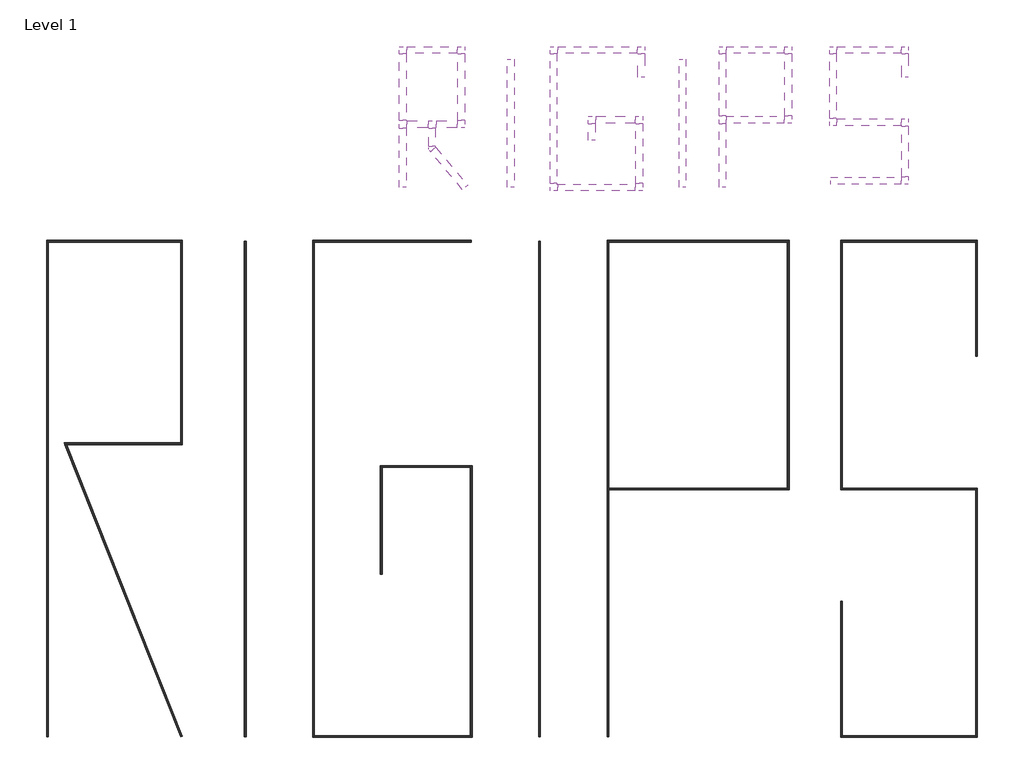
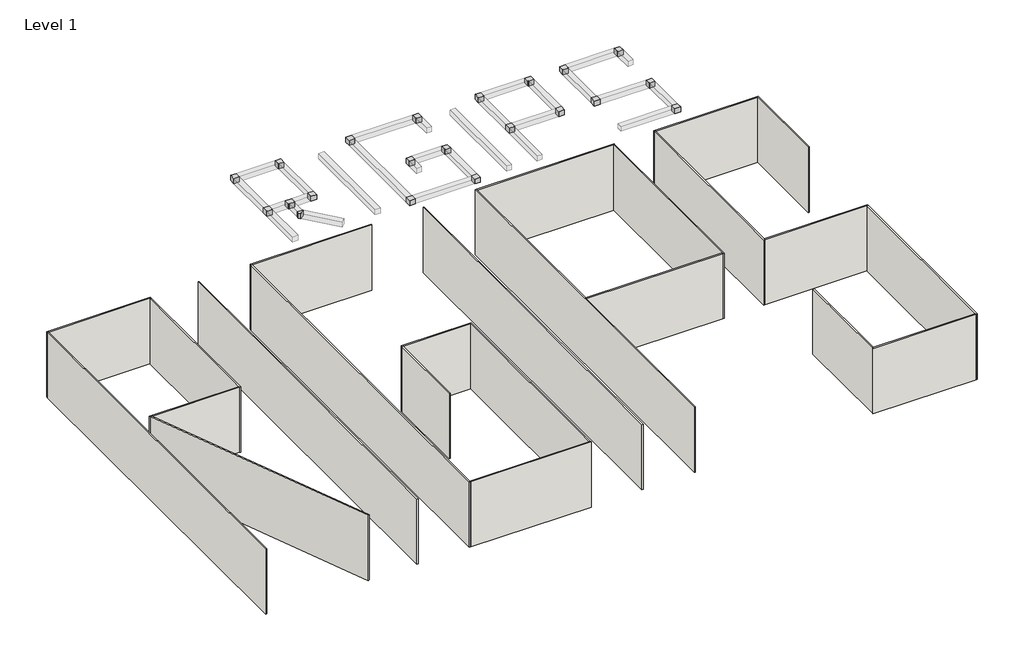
# One storey: 28 duct segments, 24 walls, 21 duct fittings.
"""IFC4 building model written with IfcOpenShell, lengths in millimetres."""

from ifc_helpers import new_model, si_unit, frame, origin, origin_with_axes, place, context, project, spatial, polyline, outline, extrude, faceted_brep, transform, mapped, element, save
from components import m_rectangular_elbow_mitered_standard_17a97d08, m_rectangular_elbow_mitered_standard_5edf3fd6, m_rectangular_tee_standard_1feb34d3

model = new_model("IFC4")

# Units and contexts
model_context = context("Model", 3, world=origin())
ifc_project = project(units=[si_unit("LENGTHUNIT", "METRE", prefix="MILLI")], contexts=[model_context])

# Site, building, storey
site = spatial("IfcSite", under=ifc_project)
building = spatial("IfcBuilding", under=site)
storey = spatial("IfcBuildingStorey", under=building, Name="Level 1", Elevation=0.0)

# Duct fittings
placement = place(None, origin())
m_rectangular_elbow_mitered_standard_shape = m_rectangular_elbow_mitered_standard_17a97d08(model_context)
element("IfcDuctFitting", 1, ObjectType="M_Rectangular Elbow - Mitered : Standard", at=placement, inside=storey, context=model_context, shape_type="MappedRepresentation", body=[
    mapped(m_rectangular_elbow_mitered_standard_shape, transform((-4984.4394889, 19814.0014604, 2743.2), x_axis=(-1.0, 0.0, 0.0), y_axis=(0.0, -1.0, 0.0), z_axis=(0.0, 0.0, 1.0))),
])
element("IfcDuctFitting", 2, ObjectType="M_Rectangular Elbow - Mitered : Standard", at=placement, inside=storey, context=model_context, shape_type="MappedRepresentation", body=[
    mapped(m_rectangular_elbow_mitered_standard_shape, transform((-2384.4394889, 19814.0014604, 2743.2), x_axis=(0.0, 1.0, 0.0), y_axis=(-1.0, 0.0, 0.0), z_axis=(0.0, 0.0, 1.0))),
])
element("IfcDuctFitting", 3, ObjectType="M_Rectangular Elbow - Mitered : Standard", at=placement, inside=storey, context=model_context, shape_type="MappedRepresentation", body=[
    mapped(m_rectangular_elbow_mitered_standard_shape, transform((-2384.4394889, 16508.9123693, 2743.2), x_axis=(1.0, 0.0, 0.0), y_axis=(0.0, 1.0, 0.0), z_axis=(0.0, 0.0, 1.0))),
])
element("IfcDuctFitting", 4, ObjectType="M_Rectangular Elbow - Mitered : Standard", at=placement, inside=storey, context=model_context, shape_type="MappedRepresentation", body=[
    mapped(m_rectangular_elbow_mitered_standard_shape, transform((1711.8797866, 13708.9123693, 2743.2), x_axis=(0.0, -1.0, 0.0), y_axis=(1.0, 0.0, 0.0), z_axis=(0.0, 0.0, 1.0))),
])
element("IfcDuctFitting", 5, ObjectType="M_Rectangular Elbow - Mitered : Standard", at=placement, inside=storey, context=model_context, shape_type="MappedRepresentation", body=[
    mapped(m_rectangular_elbow_mitered_standard_shape, transform((5511.8797866, 13708.9123693, 2743.2), x_axis=(1.0, 0.0, 0.0), y_axis=(0.0, 1.0, 0.0), z_axis=(0.0, 0.0, 1.0))),
])
element("IfcDuctFitting", 6, ObjectType="M_Rectangular Elbow - Mitered : Standard", at=placement, inside=storey, context=model_context, shape_type="MappedRepresentation", body=[
    mapped(m_rectangular_elbow_mitered_standard_shape, transform((5511.8797866, 16708.9123693, 2743.2), x_axis=(0.0, 1.0, 0.0), y_axis=(-1.0, 0.0, 0.0), z_axis=(0.0, 0.0, 1.0))),
])
element("IfcDuctFitting", 7, ObjectType="M_Rectangular Elbow - Mitered : Standard", at=placement, inside=storey, context=model_context, shape_type="MappedRepresentation", body=[
    mapped(m_rectangular_elbow_mitered_standard_shape, transform((3411.8797866, 16708.9123693, 2743.2), x_axis=(-1.0, 0.0, 0.0), y_axis=(0.0, -1.0, 0.0), z_axis=(0.0, 0.0, 1.0))),
])
element("IfcDuctFitting", 8, ObjectType="M_Rectangular Elbow - Mitered : Standard", at=placement, inside=storey, context=model_context, shape_type="MappedRepresentation", body=[
    mapped(m_rectangular_elbow_mitered_standard_shape, transform((1711.8797866, 19814.0014604, 2743.2), x_axis=(-1.0, 0.0, 0.0), y_axis=(0.0, -1.0, 0.0), z_axis=(0.0, 0.0, 1.0))),
])
element("IfcDuctFitting", 9, ObjectType="M_Rectangular Elbow - Mitered : Standard", at=placement, inside=storey, context=model_context, shape_type="MappedRepresentation", body=[
    mapped(m_rectangular_elbow_mitered_standard_shape, transform((5611.8797866, 19814.0014604, 2743.2), x_axis=(0.0, 1.0, 0.0), y_axis=(-1.0, 0.0, 0.0), z_axis=(0.0, 0.0, 1.0))),
])
element("IfcDuctFitting", 10, ObjectType="M_Rectangular Elbow - Mitered : Standard", at=placement, inside=storey, context=model_context, shape_type="MappedRepresentation", body=[
    mapped(m_rectangular_elbow_mitered_standard_shape, transform((9214.9845171, 19814.0014604, 2743.2), x_axis=(-1.0, 0.0, 0.0), y_axis=(0.0, -1.0, 0.0), z_axis=(0.0, 0.0, 1.0))),
])
element("IfcDuctFitting", 11, ObjectType="M_Rectangular Elbow - Mitered : Standard", at=placement, inside=storey, context=model_context, shape_type="MappedRepresentation", body=[
    mapped(m_rectangular_elbow_mitered_standard_shape, transform((12131.9318568, 19814.0014604, 2743.2), x_axis=(0.0, 1.0, 0.0), y_axis=(-1.0, 0.0, 0.0), z_axis=(0.0, 0.0, 1.0))),
])
element("IfcDuctFitting", 12, ObjectType="M_Rectangular Elbow - Mitered : Standard", at=placement, inside=storey, context=model_context, shape_type="MappedRepresentation", body=[
    mapped(m_rectangular_elbow_mitered_standard_shape, transform((12131.9318568, 16714.0014604, 2743.2), x_axis=(1.0, 0.0, 0.0), y_axis=(0.0, 1.0, 0.0), z_axis=(0.0, 0.0, 1.0))),
])
element("IfcDuctFitting", 13, ObjectType="M_Rectangular Elbow - Mitered : Standard", at=placement, inside=storey, context=model_context, shape_type="MappedRepresentation", body=[
    mapped(m_rectangular_elbow_mitered_standard_shape, transform((17323.1783387, 19814.0014604, 2743.2), x_axis=(0.0, 1.0, 0.0), y_axis=(-1.0, 0.0, 0.0), z_axis=(0.0, 0.0, 1.0))),
])
element("IfcDuctFitting", 14, ObjectType="M_Rectangular Elbow - Mitered : Standard", at=placement, inside=storey, context=model_context, shape_type="MappedRepresentation", body=[
    mapped(m_rectangular_elbow_mitered_standard_shape, transform((14123.1783387, 19814.0014604, 2743.2), x_axis=(-1.0, 0.0, 0.0), y_axis=(0.0, -1.0, 0.0), z_axis=(0.0, 0.0, 1.0))),
])
element("IfcDuctFitting", 15, ObjectType="M_Rectangular Elbow - Mitered : Standard", at=placement, inside=storey, context=model_context, shape_type="MappedRepresentation", body=[
    mapped(m_rectangular_elbow_mitered_standard_shape, transform((14123.1783387, 16610.608733, 2743.2), x_axis=(0.0, -1.0, 0.0), y_axis=(1.0, 0.0, 0.0), z_axis=(0.0, 0.0, 1.0))),
])
element("IfcDuctFitting", 16, ObjectType="M_Rectangular Elbow - Mitered : Standard", at=placement, inside=storey, context=model_context, shape_type="MappedRepresentation", body=[
    mapped(m_rectangular_elbow_mitered_standard_shape, transform((17323.1783387, 16610.608733, 2743.2), x_axis=(0.0, 1.0, 0.0), y_axis=(-1.0, 0.0, 0.0), z_axis=(0.0, 0.0, 1.0))),
])
element("IfcDuctFitting", 17, ObjectType="M_Rectangular Elbow - Mitered : Standard", at=placement, inside=storey, context=model_context, shape_type="MappedRepresentation", body=[
    mapped(m_rectangular_elbow_mitered_standard_shape, transform((17323.1783387, 14010.608733, 2743.2), x_axis=(1.0, 0.0, 0.0), y_axis=(0.0, 1.0, 0.0), z_axis=(0.0, 0.0, 1.0))),
])
m_rectangular_elbow_mitered_standard_2_shape = m_rectangular_elbow_mitered_standard_5edf3fd6(model_context)
element("IfcDuctFitting", 18, ObjectType="M_Rectangular Elbow - Mitered : Standard", at=placement, inside=storey, context=model_context, shape_type="MappedRepresentation", body=[
    mapped(m_rectangular_elbow_mitered_standard_2_shape, transform((-3684.4394889, 15456.4123693, 2743.2), x_axis=(0.0, -1.0, 0.0), y_axis=(1.0, 0.0, 0.0), z_axis=(0.0, 0.0, 1.0))),
])
m_rectangular_tee_standard_shape = m_rectangular_tee_standard_1feb34d3(model_context)
element("IfcDuctFitting", 19, ObjectType="M_Rectangular Tee : Standard", at=placement, inside=storey, context=model_context, shape_type="MappedRepresentation", body=[
    mapped(m_rectangular_tee_standard_shape, transform((-4984.4394889, 16508.9123693, 2743.2), x_axis=(0.0, 1.0, 0.0), y_axis=(-1.0, 0.0, 0.0), z_axis=(0.0, 0.0, 1.0))),
])
element("IfcDuctFitting", 20, ObjectType="M_Rectangular Tee : Standard", at=placement, inside=storey, context=model_context, shape_type="MappedRepresentation", body=[
    mapped(m_rectangular_tee_standard_shape, transform((-3684.4394889, 16508.9123693, 2743.2), x_axis=(1.0, 0.0, 0.0), y_axis=(0.0, 1.0, 0.0), z_axis=(0.0, 0.0, 1.0))),
])
element("IfcDuctFitting", 21, ObjectType="M_Rectangular Tee : Standard", at=placement, inside=storey, context=model_context, shape_type="MappedRepresentation", body=[
    mapped(m_rectangular_tee_standard_shape, transform((9214.9845171, 16714.0014604, 2743.2), x_axis=(0.0, 1.0, 0.0), y_axis=(-1.0, 0.0, 0.0), z_axis=(0.0, 0.0, 1.0))),
])

# Duct segments
element("IfcDuctSegment", 22, ObjectType="RIGIPS - 6.65.00 - EI60 poziomy", at=placement, inside=storey, context=model_context, shape_type="SweptSolid", body=[
    extrude(outline(polyline([(-5136.9394889, 16331.4123693), (-4831.9394889, 16331.4123693), (-4831.9394889, 13708.9123693), (-5136.9394889, 13708.9123693), (-5136.9394889, 16331.4123693)])), frame((0.0, 0.0, 2590.7), z_axis=(0.0, 0.0, 1.0), x_axis=(1.0, 0.0, 0.0)), (0.0, 0.0, 1.0), 305.0),
])
element("IfcDuctSegment", 23, ObjectType="RIGIPS - 6.65.00 - EI60 poziomy", at=placement, inside=storey, context=model_context, shape_type="SweptSolid", body=[
    extrude(outline(polyline([(-4806.9394889, 19661.5014604), (-4806.9394889, 19966.5014604), (-2561.9394889, 19966.5014604), (-2561.9394889, 19661.5014604), (-4806.9394889, 19661.5014604)])), frame((0.0, 0.0, 2590.7), z_axis=(0.0, 0.0, 1.0), x_axis=(1.0, 0.0, 0.0)), (0.0, 0.0, 1.0), 305.0),
])
element("IfcDuctSegment", 24, ObjectType="RIGIPS - 6.65.00 - EI60 poziomy", at=placement, inside=storey, context=model_context, shape_type="SweptSolid", body=[
    extrude(outline(polyline([(-2536.9394889, 19636.5014604), (-2231.9394889, 19636.5014604), (-2231.9394889, 16686.4123693), (-2536.9394889, 16686.4123693), (-2536.9394889, 19636.5014604)])), frame((0.0, 0.0, 2590.7), z_axis=(0.0, 0.0, 1.0), x_axis=(1.0, 0.0, 0.0)), (0.0, 0.0, 1.0), 305.0),
])
element("IfcDuctSegment", 25, ObjectType="RIGIPS - 6.65.00 - EI60 poziomy", at=placement, inside=storey, context=model_context, shape_type="SweptSolid", body=[
    extrude(outline(polyline([(-3506.9394889, 16356.4123693), (-3506.9394889, 16661.4123693), (-2561.9394889, 16661.4123693), (-2561.9394889, 16356.4123693), (-3506.9394889, 16356.4123693)])), frame((0.0, 0.0, 2590.7), z_axis=(0.0, 0.0, 1.0), x_axis=(1.0, 0.0, 0.0)), (0.0, 0.0, 1.0), 305.0),
])
element("IfcDuctSegment", 26, ObjectType="RIGIPS - 6.65.00 - EI60 poziomy", at=placement, inside=storey, context=model_context, shape_type="SweptSolid", body=[
    extrude(outline(polyline([(-5136.9394889, 19636.5014604), (-4831.9394889, 19636.5014604), (-4831.9394889, 16686.4123693), (-5136.9394889, 16686.4123693), (-5136.9394889, 19636.5014604)])), frame((0.0, 0.0, 2590.7), z_axis=(0.0, 0.0, 1.0), x_axis=(1.0, 0.0, 0.0)), (0.0, 0.0, 1.0), 305.0),
])
element("IfcDuctSegment", 27, ObjectType="RIGIPS - 6.65.00 - EI60 poziomy", at=placement, inside=storey, context=model_context, shape_type="SweptSolid", body=[
    extrude(outline(polyline([(-3836.9394889, 16331.4123693), (-3531.9394889, 16331.4123693), (-3531.9394889, 15536.91783), (-3836.9394889, 15536.91783), (-3836.9394889, 16331.4123693)])), frame((0.0, 0.0, 2590.7), z_axis=(0.0, 0.0, 1.0), x_axis=(1.0, 0.0, 0.0)), (0.0, 0.0, 1.0), 305.0),
])
element("IfcDuctSegment", 28, ObjectType="RIGIPS - 6.65.00 - EI60 poziomy", at=placement, inside=storey, context=model_context, shape_type="SweptSolid", body=[
    extrude(outline(polyline([(-4806.9394889, 16356.4123693), (-4806.9394889, 16661.4123693), (-3861.9394889, 16661.4123693), (-3861.9394889, 16356.4123693), (-4806.9394889, 16356.4123693)])), frame((0.0, 0.0, 2590.7), z_axis=(0.0, 0.0, 1.0), x_axis=(1.0, 0.0, 0.0)), (0.0, 0.0, 1.0), 305.0),
])
element("IfcDuctSegment", 29, ObjectType="RIGIPS - 6.65.00 - EI60 poziomy", at=placement, inside=storey, context=model_context, shape_type="SweptSolid", body=[
    extrude(outline(polyline([(-3749.5133538, 15296.716498), (-3515.8697987, 15492.7667189), (-2101.2911059, 13806.9374797), (-2334.934661, 13610.8872588), (-3749.5133538, 15296.716498)])), frame((0.0, 0.0, 2590.7), z_axis=(0.0, 0.0, 1.0), x_axis=(1.0, 0.0, 0.0)), (0.0, 0.0, 1.0), 305.0),
])
element("IfcDuctSegment", 30, ObjectType="RIGIPS - 6.65.00 - EI60 poziomy", at=placement, inside=storey, context=model_context, shape_type="SweptSolid", body=[
    extrude(outline(polyline([(-336.5660324, 19410.608733), (-31.5660324, 19410.608733), (-31.5660324, 13708.9123693), (-336.5660324, 13708.9123693), (-336.5660324, 19410.608733)])), frame((0.0, 0.0, 2590.7), z_axis=(0.0, 0.0, 1.0), x_axis=(1.0, 0.0, 0.0)), (0.0, 0.0, 1.0), 305.0),
])
element("IfcDuctSegment", 31, ObjectType="RIGIPS - 6.65.00 - EI60 poziomy", at=placement, inside=storey, context=model_context, shape_type="SweptSolid", body=[
    extrude(outline(polyline([(1559.3797866, 19636.5014604), (1864.3797866, 19636.5014604), (1864.3797866, 13886.4123693), (1559.3797866, 13886.4123693), (1559.3797866, 19636.5014604)])), frame((0.0, 0.0, 2590.7), z_axis=(0.0, 0.0, 1.0), x_axis=(1.0, 0.0, 0.0)), (0.0, 0.0, 1.0), 305.0),
])
element("IfcDuctSegment", 32, ObjectType="RIGIPS - 6.65.00 - EI60 poziomy", at=placement, inside=storey, context=model_context, shape_type="SweptSolid", body=[
    extrude(outline(polyline([(1889.3797866, 13556.4123693), (1889.3797866, 13861.4123693), (5334.3797866, 13861.4123693), (5334.3797866, 13556.4123693), (1889.3797866, 13556.4123693)])), frame((0.0, 0.0, 2590.7), z_axis=(0.0, 0.0, 1.0), x_axis=(1.0, 0.0, 0.0)), (0.0, 0.0, 1.0), 305.0),
])
element("IfcDuctSegment", 33, ObjectType="RIGIPS - 6.65.00 - EI60 poziomy", at=placement, inside=storey, context=model_context, shape_type="SweptSolid", body=[
    extrude(outline(polyline([(5664.3797866, 13886.4123693), (5359.3797866, 13886.4123693), (5359.3797866, 16531.4123693), (5664.3797866, 16531.4123693), (5664.3797866, 13886.4123693)])), frame((0.0, 0.0, 2590.7), z_axis=(0.0, 0.0, 1.0), x_axis=(1.0, 0.0, 0.0)), (0.0, 0.0, 1.0), 305.0),
])
element("IfcDuctSegment", 34, ObjectType="RIGIPS - 6.65.00 - EI60 poziomy", at=placement, inside=storey, context=model_context, shape_type="SweptSolid", body=[
    extrude(outline(polyline([(5334.3797866, 16861.4123693), (5334.3797866, 16556.4123693), (3589.3797866, 16556.4123693), (3589.3797866, 16861.4123693), (5334.3797866, 16861.4123693)])), frame((0.0, 0.0, 2590.7), z_axis=(0.0, 0.0, 1.0), x_axis=(1.0, 0.0, 0.0)), (0.0, 0.0, 1.0), 305.0),
])
element("IfcDuctSegment", 35, ObjectType="RIGIPS - 6.65.00 - EI60 poziomy", at=placement, inside=storey, context=model_context, shape_type="SweptSolid", body=[
    extrude(outline(polyline([(3259.3797866, 16531.4123693), (3564.3797866, 16531.4123693), (3564.3797866, 15808.9123693), (3259.3797866, 15808.9123693), (3259.3797866, 16531.4123693)])), frame((0.0, 0.0, 2590.7), z_axis=(0.0, 0.0, 1.0), x_axis=(1.0, 0.0, 0.0)), (0.0, 0.0, 1.0), 305.0),
])
element("IfcDuctSegment", 36, ObjectType="RIGIPS - 6.65.00 - EI60 poziomy", at=placement, inside=storey, context=model_context, shape_type="SweptSolid", body=[
    extrude(outline(polyline([(1889.3797866, 19661.5014604), (1889.3797866, 19966.5014604), (5434.3797866, 19966.5014604), (5434.3797866, 19661.5014604), (1889.3797866, 19661.5014604)])), frame((0.0, 0.0, 2590.7), z_axis=(0.0, 0.0, 1.0), x_axis=(1.0, 0.0, 0.0)), (0.0, 0.0, 1.0), 305.0),
])
element("IfcDuctSegment", 37, ObjectType="RIGIPS - 6.65.00 - EI60 poziomy", at=placement, inside=storey, context=model_context, shape_type="SweptSolid", body=[
    extrude(outline(polyline([(5459.3797866, 19636.5014604), (5764.3797866, 19636.5014604), (5764.3797866, 18610.608733), (5459.3797866, 18610.608733), (5459.3797866, 19636.5014604)])), frame((0.0, 0.0, 2590.7), z_axis=(0.0, 0.0, 1.0), x_axis=(1.0, 0.0, 0.0)), (0.0, 0.0, 1.0), 305.0),
])
element("IfcDuctSegment", 38, ObjectType="RIGIPS - 6.65.00 - EI60 poziomy", at=placement, inside=storey, context=model_context, shape_type="SweptSolid", body=[
    extrude(outline(polyline([(7287.5565163, 19410.608733), (7592.5565163, 19410.608733), (7592.5565163, 13708.9123693), (7287.5565163, 13708.9123693), (7287.5565163, 19410.608733)])), frame((0.0, 0.0, 2590.7), z_axis=(0.0, 0.0, 1.0), x_axis=(1.0, 0.0, 0.0)), (0.0, 0.0, 1.0), 305.0),
])
element("IfcDuctSegment", 39, ObjectType="RIGIPS - 6.65.00 - EI60 poziomy", at=placement, inside=storey, context=model_context, shape_type="SweptSolid", body=[
    extrude(outline(polyline([(9062.4845171, 16536.5014604), (9367.4845171, 16536.5014604), (9367.4845171, 13708.9123693), (9062.4845171, 13708.9123693), (9062.4845171, 16536.5014604)])), frame((0.0, 0.0, 2590.7), z_axis=(0.0, 0.0, 1.0), x_axis=(1.0, 0.0, 0.0)), (0.0, 0.0, 1.0), 305.0),
])
element("IfcDuctSegment", 40, ObjectType="RIGIPS - 6.65.00 - EI60 poziomy", at=placement, inside=storey, context=model_context, shape_type="SweptSolid", body=[
    extrude(outline(polyline([(9392.4845171, 19661.5014604), (9392.4845171, 19966.5014604), (11954.4318568, 19966.5014604), (11954.4318568, 19661.5014604), (9392.4845171, 19661.5014604)])), frame((0.0, 0.0, 2590.7), z_axis=(0.0, 0.0, 1.0), x_axis=(1.0, 0.0, 0.0)), (0.0, 0.0, 1.0), 305.0),
])
element("IfcDuctSegment", 41, ObjectType="RIGIPS - 6.65.00 - EI60 poziomy", at=placement, inside=storey, context=model_context, shape_type="SweptSolid", body=[
    extrude(outline(polyline([(11979.4318568, 19636.5014604), (12284.4318568, 19636.5014604), (12284.4318568, 16891.5014604), (11979.4318568, 16891.5014604), (11979.4318568, 19636.5014604)])), frame((0.0, 0.0, 2590.7), z_axis=(0.0, 0.0, 1.0), x_axis=(1.0, 0.0, 0.0)), (0.0, 0.0, 1.0), 305.0),
])
element("IfcDuctSegment", 42, ObjectType="RIGIPS - 6.65.00 - EI60 poziomy", at=placement, inside=storey, context=model_context, shape_type="SweptSolid", body=[
    extrude(outline(polyline([(9392.4845171, 16561.5014604), (9392.4845171, 16866.5014604), (11954.4318568, 16866.5014604), (11954.4318568, 16561.5014604), (9392.4845171, 16561.5014604)])), frame((0.0, 0.0, 2590.7), z_axis=(0.0, 0.0, 1.0), x_axis=(1.0, 0.0, 0.0)), (0.0, 0.0, 1.0), 305.0),
])
element("IfcDuctSegment", 43, ObjectType="RIGIPS - 6.65.00 - EI60 poziomy", at=placement, inside=storey, context=model_context, shape_type="SweptSolid", body=[
    extrude(outline(polyline([(9062.4845171, 19636.5014604), (9367.4845171, 19636.5014604), (9367.4845171, 16891.5014604), (9062.4845171, 16891.5014604), (9062.4845171, 19636.5014604)])), frame((0.0, 0.0, 2590.7), z_axis=(0.0, 0.0, 1.0), x_axis=(1.0, 0.0, 0.0)), (0.0, 0.0, 1.0), 305.0),
])
element("IfcDuctSegment", 44, ObjectType="RIGIPS - 6.65.00 - EI60 poziomy", at=placement, inside=storey, context=model_context, shape_type="SweptSolid", body=[
    extrude(outline(polyline([(17475.6783387, 18610.608733), (17170.6783387, 18610.608733), (17170.6783387, 19636.5014604), (17475.6783387, 19636.5014604), (17475.6783387, 18610.608733)])), frame((0.0, 0.0, 2590.7), z_axis=(0.0, 0.0, 1.0), x_axis=(1.0, 0.0, 0.0)), (0.0, 0.0, 1.0), 305.0),
])
element("IfcDuctSegment", 45, ObjectType="RIGIPS - 6.65.00 - EI60 poziomy", at=placement, inside=storey, context=model_context, shape_type="SweptSolid", body=[
    extrude(outline(polyline([(17145.6783387, 19966.5014604), (17145.6783387, 19661.5014604), (14300.6783387, 19661.5014604), (14300.6783387, 19966.5014604), (17145.6783387, 19966.5014604)])), frame((0.0, 0.0, 2590.7), z_axis=(0.0, 0.0, 1.0), x_axis=(1.0, 0.0, 0.0)), (0.0, 0.0, 1.0), 305.0),
])
element("IfcDuctSegment", 46, ObjectType="RIGIPS - 6.65.00 - EI60 poziomy", at=placement, inside=storey, context=model_context, shape_type="SweptSolid", body=[
    extrude(outline(polyline([(13970.6783387, 19636.5014604), (14275.6783387, 19636.5014604), (14275.6783387, 16788.108733), (13970.6783387, 16788.108733), (13970.6783387, 19636.5014604)])), frame((0.0, 0.0, 2590.7), z_axis=(0.0, 0.0, 1.0), x_axis=(1.0, 0.0, 0.0)), (0.0, 0.0, 1.0), 305.0),
])
element("IfcDuctSegment", 47, ObjectType="RIGIPS - 6.65.00 - EI60 poziomy", at=placement, inside=storey, context=model_context, shape_type="SweptSolid", body=[
    extrude(outline(polyline([(14300.6783387, 16458.108733), (14300.6783387, 16763.108733), (17145.6783387, 16763.108733), (17145.6783387, 16458.108733), (14300.6783387, 16458.108733)])), frame((0.0, 0.0, 2590.7), z_axis=(0.0, 0.0, 1.0), x_axis=(1.0, 0.0, 0.0)), (0.0, 0.0, 1.0), 305.0),
])
element("IfcDuctSegment", 48, ObjectType="RIGIPS - 6.65.00 - EI60 poziomy", at=placement, inside=storey, context=model_context, shape_type="SweptSolid", body=[
    extrude(outline(polyline([(17170.6783387, 16433.108733), (17475.6783387, 16433.108733), (17475.6783387, 14188.108733), (17170.6783387, 14188.108733), (17170.6783387, 16433.108733)])), frame((0.0, 0.0, 2590.7), z_axis=(0.0, 0.0, 1.0), x_axis=(1.0, 0.0, 0.0)), (0.0, 0.0, 1.0), 305.0),
])
element("IfcDuctSegment", 49, ObjectType="RIGIPS - 6.65.00 - EI60 poziomy", at=placement, inside=storey, context=model_context, shape_type="SweptSolid", body=[
    extrude(outline(polyline([(17145.6783387, 14163.108733), (17145.6783387, 13858.108733), (14023.1783387, 13858.108733), (14023.1783387, 14163.108733), (17145.6783387, 14163.108733)])), frame((0.0, 0.0, 2590.7), z_axis=(0.0, 0.0, 1.0), x_axis=(1.0, 0.0, 0.0)), (0.0, 0.0, 1.0), 305.0),
])

# Walls
element("IfcWall", 50, ObjectType="RIGIPS - 3.40.01 - EI 15 ,REI 15 (H=3000  Rw=44)", at=placement, inside=storey, context=model_context, shape_type="Brep", body=[
    faceted_brep([(-20804.951008, 11284.7896545, 0.0), (-20729.951008, 11284.7896545, 0.0), (-14842.451008, 11284.7896545, 0.0), (-14767.451008, 11284.7896545, 0.0), (-14767.451008, 11284.7896545, 4000.0), (-14842.451008, 11284.7896545, 4000.0), (-20729.951008, 11284.7896545, 4000.0), (-20804.951008, 11284.7896545, 4000.0), (-20804.951008, 11359.7896545, 0.0), (-20804.951008, 11359.7896545, 4000.0), (-14767.451008, 11359.7896545, 4000.0), (-14767.451008, 11359.7896545, 0.0)], [[[0, 1, 2, 3, 4, 5, 6, 7]], [[8, 9, 10, 11]], [[3, 2, 1, 0, 8, 11]], [[7, 6, 5, 4, 10, 9]], [[4, 3, 11, 10]], [[0, 7, 9, 8]]]),
])
element("IfcWall", 51, ObjectType="RIGIPS - 3.40.01 - EI 15 ,REI 15 (H=3000  Rw=44)", at=placement, inside=storey, context=model_context, shape_type="Brep", body=[
    faceted_brep([(-14842.451008, 11284.7896545, 0.0), (-14842.451008, 2359.7896545, 0.0), (-14842.451008, 2284.7896545, 0.0), (-14842.451008, 2284.7896545, 4000.0), (-14842.451008, 2359.7896545, 4000.0), (-14842.451008, 11284.7896545, 4000.0), (-14767.451008, 11284.7896545, 0.0), (-14767.451008, 11284.7896545, 4000.0), (-14767.451008, 2284.7896545, 4000.0), (-14767.451008, 2284.7896545, 0.0)], [[[0, 1, 2, 3, 4, 5]], [[6, 7, 8, 9]], [[2, 1, 0, 6, 9]], [[5, 4, 3, 8, 7]], [[0, 5, 7, 6]], [[3, 2, 9, 8]]]),
])
element("IfcWall", 52, ObjectType="RIGIPS - 3.40.01 - EI 15 ,REI 15 (H=3000  Rw=44)", at=placement, inside=storey, context=model_context, shape_type="Brep", body=[
    faceted_brep([(-14842.451008, 2359.7896545, 0.0), (-20022.6915215, 2359.7896545, 0.0), (-20022.6915215, 2359.7896545, 4000.0), (-14842.451008, 2359.7896545, 4000.0), (-14842.451008, 2284.7896545, 0.0), (-14842.451008, 2284.7896545, 4000.0), (-19912.2104945, 2284.7896545, 4000.0), (-19992.9078677, 2284.7896545, 4000.0), (-19992.9078677, 2284.7896545, 0.0), (-19912.2104945, 2284.7896545, 0.0)], [[[0, 1, 2, 3]], [[4, 5, 6, 7, 8, 9]], [[1, 0, 4, 9, 8]], [[3, 2, 7, 6, 5]], [[0, 3, 5, 4]], [[2, 1, 8, 7]]]),
])
element("IfcWall", 53, ObjectType="RIGIPS - 3.40.01 - EI 15 ,REI 15 (H=3000  Rw=44)", at=placement, inside=storey, context=model_context, shape_type="SweptSolid", body=[
    extrude(outline(polyline([(-14839.8034436, -10691.5507838), (-19992.9078677, 2284.7896545), (-19912.2104945, 2284.7896545), (-14770.0985724, -10663.8699071), (-14839.8034436, -10691.5507838)])), origin_with_axes(), (0.0, 0.0, 1.0), 4000.0),
])
element("IfcWall", 54, ObjectType="RIGIPS - 3.40.01 - EI 15 ,REI 15 (H=3000  Rw=44)", at=placement, inside=storey, context=model_context, shape_type="SweptSolid", body=[
    extrude(outline(polyline([(-12018.0681432, -10677.7103455), (-12018.0681432, 11322.2896545), (-11943.0681432, 11322.2896545), (-11943.0681432, -10677.7103455), (-12018.0681432, -10677.7103455)])), origin_with_axes(), (0.0, 0.0, 1.0), 4000.0),
])
element("IfcWall", 55, ObjectType="RIGIPS - 3.40.01 - EI 15 ,REI 15 (H=3000  Rw=44)", at=placement, inside=storey, context=model_context, shape_type="Brep", body=[
    faceted_brep([(-1943.0681432, 11359.7896545, 0.0), (-8980.5681432, 11359.7896545, 0.0), (-8980.5681432, 11359.7896545, 4000.0), (-1943.0681432, 11359.7896545, 4000.0), (-1943.0681432, 11284.7896545, 0.0), (-1943.0681432, 11284.7896545, 4000.0), (-8905.5681432, 11284.7896545, 4000.0), (-8980.5681432, 11284.7896545, 4000.0), (-8980.5681432, 11284.7896545, 0.0), (-8905.5681432, 11284.7896545, 0.0)], [[[0, 1, 2, 3]], [[4, 5, 6, 7, 8, 9]], [[1, 0, 4, 9, 8]], [[3, 2, 7, 6, 5]], [[0, 3, 5, 4]], [[2, 1, 8, 7]]]),
])
element("IfcWall", 56, ObjectType="RIGIPS - 3.40.01 - EI 15 ,REI 15 (H=3000  Rw=44)", at=placement, inside=storey, context=model_context, shape_type="Brep", body=[
    faceted_brep([(-8980.5681432, 11284.7896545, 0.0), (-8980.5681432, -10715.2103455, 0.0), (-8980.5681432, -10715.2103455, 4000.0), (-8980.5681432, 11284.7896545, 4000.0), (-8905.5681432, 11284.7896545, 0.0), (-8905.5681432, 11284.7896545, 4000.0), (-8905.5681432, -10640.2103455, 4000.0), (-8905.5681432, -10715.2103455, 4000.0), (-8905.5681432, -10715.2103455, 0.0), (-8905.5681432, -10640.2103455, 0.0)], [[[0, 1, 2, 3]], [[4, 5, 6, 7, 8, 9]], [[1, 0, 4, 9, 8]], [[3, 2, 7, 6, 5]], [[0, 3, 5, 4]], [[2, 1, 8, 7]]]),
])
element("IfcWall", 57, ObjectType="RIGIPS - 3.40.01 - EI 15 ,REI 15 (H=3000  Rw=44)", at=placement, inside=storey, context=model_context, shape_type="Brep", body=[
    faceted_brep([(-8905.5681432, -10715.2103455, 0.0), (-1905.5681432, -10715.2103455, 0.0), (-1905.5681432, -10715.2103455, 4000.0), (-8905.5681432, -10715.2103455, 4000.0), (-8905.5681432, -10640.2103455, 0.0), (-8905.5681432, -10640.2103455, 4000.0), (-1980.5681432, -10640.2103455, 4000.0), (-1905.5681432, -10640.2103455, 4000.0), (-1905.5681432, -10640.2103455, 0.0), (-1980.5681432, -10640.2103455, 0.0)], [[[0, 1, 2, 3]], [[4, 5, 6, 7, 8, 9]], [[1, 0, 4, 9, 8]], [[3, 2, 7, 6, 5]], [[0, 3, 5, 4]], [[2, 1, 8, 7]]]),
])
element("IfcWall", 58, ObjectType="RIGIPS - 3.40.01 - EI 15 ,REI 15 (H=3000  Rw=44)", at=placement, inside=storey, context=model_context, shape_type="Brep", body=[
    faceted_brep([(-1905.5681432, -10640.2103455, 0.0), (-1905.5681432, 1359.7896545, 0.0), (-1905.5681432, 1359.7896545, 4000.0), (-1905.5681432, -10640.2103455, 4000.0), (-1980.5681432, -10640.2103455, 0.0), (-1980.5681432, -10640.2103455, 4000.0), (-1980.5681432, 1284.7896545, 4000.0), (-1980.5681432, 1359.7896545, 4000.0), (-1980.5681432, 1359.7896545, 0.0), (-1980.5681432, 1284.7896545, 0.0)], [[[0, 1, 2, 3]], [[4, 5, 6, 7, 8, 9]], [[1, 0, 4, 9, 8]], [[3, 2, 7, 6, 5]], [[0, 3, 5, 4]], [[2, 1, 8, 7]]]),
])
element("IfcWall", 59, ObjectType="RIGIPS - 3.40.01 - EI 15 ,REI 15 (H=3000  Rw=44)", at=placement, inside=storey, context=model_context, shape_type="Brep", body=[
    faceted_brep([(-1980.5681432, 1359.7896545, 0.0), (-5980.5681432, 1359.7896545, 0.0), (-5980.5681432, 1359.7896545, 4000.0), (-1980.5681432, 1359.7896545, 4000.0), (-1980.5681432, 1284.7896545, 0.0), (-1980.5681432, 1284.7896545, 4000.0), (-5905.5681432, 1284.7896545, 4000.0), (-5980.5681432, 1284.7896545, 4000.0), (-5980.5681432, 1284.7896545, 0.0), (-5905.5681432, 1284.7896545, 0.0)], [[[0, 1, 2, 3]], [[4, 5, 6, 7, 8, 9]], [[1, 0, 4, 9, 8]], [[3, 2, 7, 6, 5]], [[0, 3, 5, 4]], [[2, 1, 8, 7]]]),
])
element("IfcWall", 60, ObjectType="RIGIPS - 3.40.01 - EI 15 ,REI 15 (H=3000  Rw=44)", at=placement, inside=storey, context=model_context, shape_type="SweptSolid", body=[
    extrude(outline(polyline([(-5980.5681432, -3471.7741881), (-5980.5681432, 1284.7896545), (-5905.5681432, 1284.7896545), (-5905.5681432, -3471.7741881), (-5980.5681432, -3471.7741881)])), origin_with_axes(), (0.0, 0.0, 1.0), 4000.0),
])
element("IfcWall", 61, ObjectType="RIGIPS - 3.40.01 - EI 15 ,REI 15 (H=3000  Rw=44)", at=placement, inside=storey, context=model_context, shape_type="SweptSolid", body=[
    extrude(outline(polyline([(1056.9318568, -10677.7103455), (1056.9318568, 11322.2896545), (1131.9318568, 11322.2896545), (1131.9318568, -10677.7103455), (1056.9318568, -10677.7103455)])), origin_with_axes(), (0.0, 0.0, 1.0), 4000.0),
])
element("IfcWall", 62, ObjectType="RIGIPS - 3.40.02 - EI 30, REI 30 (H=4500  Rw=46)", at=placement, inside=storey, context=model_context, shape_type="Brep", body=[
    faceted_brep([(4094.4318568, 11359.7896545, 0.0), (4094.4318568, -10677.7103455, 0.0), (4094.4318568, -10677.7103455, 4000.0), (4094.4318568, 11359.7896545, 4000.0), (4169.4318568, 11359.7896545, 0.0), (4169.4318568, 11359.7896545, 4000.0), (4169.4318568, 11284.7896545, 4000.0), (4169.4318568, 359.7896545, 4000.0), (4169.4318568, 284.7896545, 4000.0), (4169.4318568, -10677.7103455, 4000.0), (4169.4318568, -10677.7103455, 0.0), (4169.4318568, 284.7896545, 0.0), (4169.4318568, 359.7896545, 0.0), (4169.4318568, 11284.7896545, 0.0)], [[[0, 1, 2, 3]], [[4, 5, 6, 7, 8, 9, 10, 11, 12, 13]], [[1, 0, 4, 13, 12, 11, 10]], [[2, 1, 10, 9]], [[3, 2, 9, 8, 7, 6, 5]], [[0, 3, 5, 4]]]),
])
element("IfcWall", 63, ObjectType="RIGIPS - 3.40.02 - EI 30, REI 30 (H=4500  Rw=46)", at=placement, inside=storey, context=model_context, shape_type="Brep", body=[
    faceted_brep([(4169.4318568, 11284.7896545, 0.0), (12094.4318568, 11284.7896545, 0.0), (12169.4318568, 11284.7896545, 0.0), (12169.4318568, 11284.7896545, 4000.0), (12094.4318568, 11284.7896545, 4000.0), (4169.4318568, 11284.7896545, 4000.0), (4169.4318568, 11359.7896545, 0.0), (4169.4318568, 11359.7896545, 4000.0), (12169.4318568, 11359.7896545, 4000.0), (12169.4318568, 11359.7896545, 0.0)], [[[0, 1, 2, 3, 4, 5]], [[6, 7, 8, 9]], [[2, 1, 0, 6, 9]], [[5, 4, 3, 8, 7]], [[0, 5, 7, 6]], [[3, 2, 9, 8]]]),
])
element("IfcWall", 64, ObjectType="RIGIPS - 3.40.02 - EI 30, REI 30 (H=4500  Rw=46)", at=placement, inside=storey, context=model_context, shape_type="Brep", body=[
    faceted_brep([(12094.4318568, 11284.7896545, 0.0), (12094.4318568, 359.7896545, 0.0), (12094.4318568, 284.7896545, 0.0), (12094.4318568, 284.7896545, 4000.0), (12094.4318568, 359.7896545, 4000.0), (12094.4318568, 11284.7896545, 4000.0), (12169.4318568, 11284.7896545, 0.0), (12169.4318568, 11284.7896545, 4000.0), (12169.4318568, 284.7896545, 4000.0), (12169.4318568, 284.7896545, 0.0)], [[[0, 1, 2, 3, 4, 5]], [[6, 7, 8, 9]], [[2, 1, 0, 6, 9]], [[5, 4, 3, 8, 7]], [[0, 5, 7, 6]], [[3, 2, 9, 8]]]),
])
element("IfcWall", 65, ObjectType="RIGIPS - 3.40.02 - EI 30, REI 30 (H=4500  Rw=46)", at=placement, inside=storey, context=model_context, shape_type="SweptSolid", body=[
    extrude(outline(polyline([(4169.4318568, 359.7896545), (12094.4318568, 359.7896545), (12094.4318568, 284.7896545), (4169.4318568, 284.7896545), (4169.4318568, 359.7896545)])), origin_with_axes(), (0.0, 0.0, 1.0), 4000.0),
])
element("IfcWall", 66, ObjectType="RIGIPS - 3.40.02 - EI 30, REI 30 (H=4500  Rw=46)", at=placement, inside=storey, context=model_context, shape_type="Brep", body=[
    faceted_brep([(20538.7105644, 6202.5889205, 0.0), (20538.7105644, 11359.7896545, 0.0), (20538.7105644, 11359.7896545, 4000.0), (20538.7105644, 6202.5889205, 4000.0), (20463.7105644, 6202.5889205, 0.0), (20463.7105644, 6202.5889205, 4000.0), (20463.7105644, 11284.7896545, 4000.0), (20463.7105644, 11359.7896545, 4000.0), (20463.7105644, 11359.7896545, 0.0), (20463.7105644, 11284.7896545, 0.0)], [[[0, 1, 2, 3]], [[4, 5, 6, 7, 8, 9]], [[1, 0, 4, 9, 8]], [[3, 2, 7, 6, 5]], [[0, 3, 5, 4]], [[2, 1, 8, 7]]]),
])
element("IfcWall", 67, ObjectType="RIGIPS - 3.40.02 - EI 30, REI 30 (H=4500  Rw=46)", at=placement, inside=storey, context=model_context, shape_type="Brep", body=[
    faceted_brep([(20463.7105644, 11359.7896545, 0.0), (14463.7105644, 11359.7896545, 0.0), (14463.7105644, 11359.7896545, 4000.0), (20463.7105644, 11359.7896545, 4000.0), (20463.7105644, 11284.7896545, 0.0), (20463.7105644, 11284.7896545, 4000.0), (14538.7105644, 11284.7896545, 4000.0), (14463.7105644, 11284.7896545, 4000.0), (14463.7105644, 11284.7896545, 0.0), (14538.7105644, 11284.7896545, 0.0)], [[[0, 1, 2, 3]], [[4, 5, 6, 7, 8, 9]], [[1, 0, 4, 9, 8]], [[3, 2, 7, 6, 5]], [[0, 3, 5, 4]], [[2, 1, 8, 7]]]),
])
element("IfcWall", 68, ObjectType="RIGIPS - 3.40.02 - EI 30, REI 30 (H=4500  Rw=46)", at=placement, inside=storey, context=model_context, shape_type="Brep", body=[
    faceted_brep([(14463.7105644, 11284.7896545, 0.0), (14463.7105644, 284.7896545, 0.0), (14463.7105644, 284.7896545, 4000.0), (14463.7105644, 11284.7896545, 4000.0), (14538.7105644, 11284.7896545, 0.0), (14538.7105644, 11284.7896545, 4000.0), (14538.7105644, 359.7896545, 4000.0), (14538.7105644, 284.7896545, 4000.0), (14538.7105644, 284.7896545, 0.0), (14538.7105644, 359.7896545, 0.0)], [[[0, 1, 2, 3]], [[4, 5, 6, 7, 8, 9]], [[1, 0, 4, 9, 8]], [[3, 2, 7, 6, 5]], [[0, 3, 5, 4]], [[2, 1, 8, 7]]]),
])
element("IfcWall", 69, ObjectType="RIGIPS - 3.40.02 - EI 30, REI 30 (H=4500  Rw=46)", at=placement, inside=storey, context=model_context, shape_type="Brep", body=[
    faceted_brep([(14538.7105644, 284.7896545, 0.0), (20463.7105644, 284.7896545, 0.0), (20538.7105644, 284.7896545, 0.0), (20538.7105644, 284.7896545, 4000.0), (20463.7105644, 284.7896545, 4000.0), (14538.7105644, 284.7896545, 4000.0), (14538.7105644, 359.7896545, 0.0), (14538.7105644, 359.7896545, 4000.0), (20538.7105644, 359.7896545, 4000.0), (20538.7105644, 359.7896545, 0.0)], [[[0, 1, 2, 3, 4, 5]], [[6, 7, 8, 9]], [[2, 1, 0, 6, 9]], [[5, 4, 3, 8, 7]], [[0, 5, 7, 6]], [[3, 2, 9, 8]]]),
])
element("IfcWall", 70, ObjectType="RIGIPS - 3.40.02 - EI 30, REI 30 (H=4500  Rw=46)", at=placement, inside=storey, context=model_context, shape_type="Brep", body=[
    faceted_brep([(20463.7105644, 284.7896545, 0.0), (20463.7105644, -10640.2103455, 0.0), (20463.7105644, -10715.2103455, 0.0), (20463.7105644, -10715.2103455, 4000.0), (20463.7105644, -10640.2103455, 4000.0), (20463.7105644, 284.7896545, 4000.0), (20538.7105644, 284.7896545, 0.0), (20538.7105644, 284.7896545, 4000.0), (20538.7105644, -10715.2103455, 4000.0), (20538.7105644, -10715.2103455, 0.0)], [[[0, 1, 2, 3, 4, 5]], [[6, 7, 8, 9]], [[2, 1, 0, 6, 9]], [[5, 4, 3, 8, 7]], [[0, 5, 7, 6]], [[3, 2, 9, 8]]]),
])
element("IfcWall", 71, ObjectType="RIGIPS - 3.40.02 - EI 30, REI 30 (H=4500  Rw=46)", at=placement, inside=storey, context=model_context, shape_type="Brep", body=[
    faceted_brep([(20463.7105644, -10640.2103455, 0.0), (14538.7105644, -10640.2103455, 0.0), (14463.7105644, -10640.2103455, 0.0), (14463.7105644, -10640.2103455, 4000.0), (14538.7105644, -10640.2103455, 4000.0), (20463.7105644, -10640.2103455, 4000.0), (20463.7105644, -10715.2103455, 0.0), (20463.7105644, -10715.2103455, 4000.0), (14463.7105644, -10715.2103455, 4000.0), (14463.7105644, -10715.2103455, 0.0)], [[[0, 1, 2, 3, 4, 5]], [[6, 7, 8, 9]], [[2, 1, 0, 6, 9]], [[5, 4, 3, 8, 7]], [[0, 5, 7, 6]], [[3, 2, 9, 8]]]),
])
element("IfcWall", 72, ObjectType="RIGIPS - 3.40.02 - EI 30, REI 30 (H=4500  Rw=46)", at=placement, inside=storey, context=model_context, shape_type="SweptSolid", body=[
    extrude(outline(polyline([(14538.7105644, -4677.7103455), (14538.7105644, -10640.2103455), (14463.7105644, -10640.2103455), (14463.7105644, -4677.7103455), (14538.7105644, -4677.7103455)])), origin_with_axes(), (0.0, 0.0, 1.0), 4000.0),
])
element("IfcWall", 73, ObjectType="RIGIPS - 3.40.02 - EI 30, REI 30 (H=4500  Rw=46)", at=placement, inside=storey, context=model_context, shape_type="SweptSolid", body=[
    extrude(outline(polyline([(-20804.951008, -10677.7103455), (-20804.951008, 11284.7896545), (-20729.951008, 11284.7896545), (-20729.951008, -10677.7103455), (-20804.951008, -10677.7103455)])), origin_with_axes(), (0.0, 0.0, 1.0), 4000.0),
])

save(model, "model.ifc")
